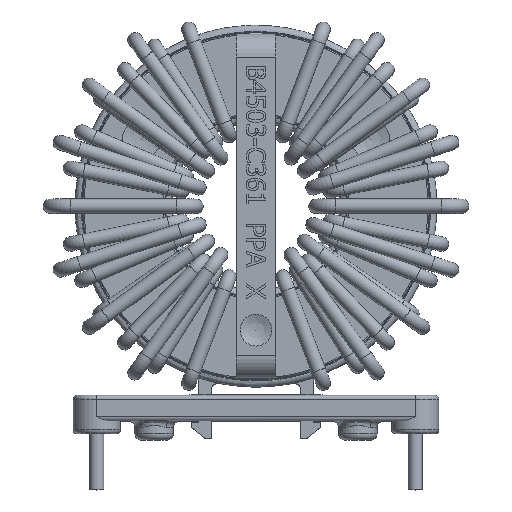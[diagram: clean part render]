
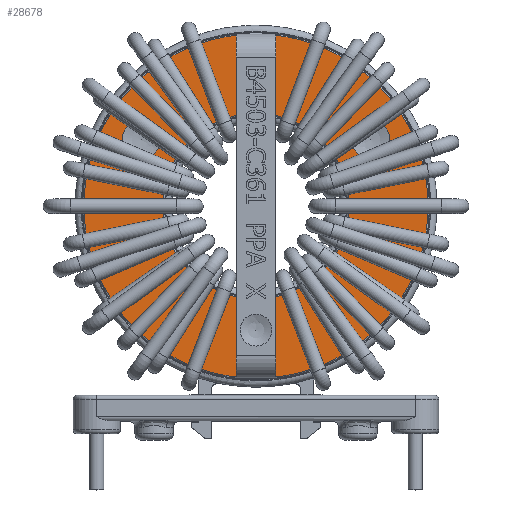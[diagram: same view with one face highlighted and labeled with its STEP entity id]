
A CAD part, top view. The second image highlights one B-rep face of the part: STEP entity #28678.
In plain terms, the highlighted planar face has unit normal (0, 0, 1).
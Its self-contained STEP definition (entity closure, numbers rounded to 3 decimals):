
#576=FACE_BOUND('',#8100,.T.);
#577=FACE_BOUND('',#8101,.T.);
#578=FACE_BOUND('',#8102,.T.);
#1127=PLANE('',#30211);
#2163=LINE('',#45174,#4158);
#2168=LINE('',#45197,#4163);
#2174=LINE('',#45226,#4169);
#2176=LINE('',#45232,#4171);
#2200=LINE('',#45375,#4195);
#2204=LINE('',#45381,#4199);
#4158=VECTOR('',#33287,10.);
#4163=VECTOR('',#33308,10.);
#4169=VECTOR('',#33314,10.);
#4171=VECTOR('',#33320,10.);
#4195=VECTOR('',#33418,10.);
#4199=VECTOR('',#33422,10.);
#6545=FACE_OUTER_BOUND('',#8099,.T.);
#8099=EDGE_LOOP('',(#23721));
#8100=EDGE_LOOP('',(#23722,#23723,#23724,#23725,#23726,#23727,#23728,#23729));
#8101=EDGE_LOOP('',(#23730));
#8102=EDGE_LOOP('',(#23731));
#9668=CIRCLE('',#30207,13.5);
#9671=CIRCLE('',#30212,7.3);
#9672=CIRCLE('',#30213,7.3);
#9673=CIRCLE('',#30214,1.5);
#9674=CIRCLE('',#30215,1.5);
#11217=VERTEX_POINT('',#42039);
#11218=VERTEX_POINT('',#42041);
#11695=VERTEX_POINT('',#45167);
#11698=VERTEX_POINT('',#45172);
#11707=VERTEX_POINT('',#45194);
#11708=VERTEX_POINT('',#45196);
#11713=VERTEX_POINT('',#45230);
#11737=VERTEX_POINT('',#45379);
#12599=VERTEX_POINT('',#50827);
#12602=VERTEX_POINT('',#50839);
#12603=VERTEX_POINT('',#50841);
#15020=EDGE_CURVE('',#11698,#11695,#2163,.T.);
#15031=EDGE_CURVE('',#11708,#11707,#2168,.T.);
#15039=EDGE_CURVE('',#11698,#11218,#2174,.T.);
#15042=EDGE_CURVE('',#11713,#11707,#2176,.T.);
#15089=EDGE_CURVE('',#11217,#11695,#2200,.T.);
#15093=EDGE_CURVE('',#11713,#11737,#2204,.T.);
#16450=EDGE_CURVE('',#12599,#12599,#9668,.T.);
#16454=EDGE_CURVE('',#11708,#11218,#9671,.T.);
#16455=EDGE_CURVE('',#11217,#11737,#9672,.T.);
#16456=EDGE_CURVE('',#12602,#12602,#9673,.T.);
#16457=EDGE_CURVE('',#12603,#12603,#9674,.T.);
#23721=ORIENTED_EDGE('',*,*,#16450,.F.);
#23722=ORIENTED_EDGE('',*,*,#15039,.T.);
#23723=ORIENTED_EDGE('',*,*,#16454,.F.);
#23724=ORIENTED_EDGE('',*,*,#15031,.T.);
#23725=ORIENTED_EDGE('',*,*,#15042,.F.);
#23726=ORIENTED_EDGE('',*,*,#15093,.T.);
#23727=ORIENTED_EDGE('',*,*,#16455,.F.);
#23728=ORIENTED_EDGE('',*,*,#15089,.T.);
#23729=ORIENTED_EDGE('',*,*,#15020,.F.);
#23730=ORIENTED_EDGE('',*,*,#16456,.T.);
#23731=ORIENTED_EDGE('',*,*,#16457,.T.);
#28678=ADVANCED_FACE('',(#6545,#576,#577,#578),#1127,.F.);
#30207=AXIS2_PLACEMENT_3D('',#50829,#35556,#35557);
#30211=AXIS2_PLACEMENT_3D('',#50836,#35565,#35566);
#30212=AXIS2_PLACEMENT_3D('',#50837,#35567,#35568);
#30213=AXIS2_PLACEMENT_3D('',#50838,#35569,#35570);
#30214=AXIS2_PLACEMENT_3D('',#50840,#35571,#35572);
#30215=AXIS2_PLACEMENT_3D('',#50842,#35573,#35574);
#33287=DIRECTION('',(1.,0.,0.));
#33308=DIRECTION('',(0.,1.,0.));
#33314=DIRECTION('',(0.,1.,0.));
#33320=DIRECTION('',(-1.,0.,0.));
#33418=DIRECTION('',(0.,-1.,0.));
#33422=DIRECTION('',(0.,-1.,0.));
#35556=DIRECTION('center_axis',(0.,0.,-1.));
#35557=DIRECTION('ref_axis',(0.,-1.,0.));
#35565=DIRECTION('center_axis',(0.,0.,-1.));
#35566=DIRECTION('ref_axis',(0.,-1.,0.));
#35567=DIRECTION('center_axis',(0.,0.,1.));
#35568=DIRECTION('ref_axis',(0.,-1.,0.));
#35569=DIRECTION('center_axis',(0.,0.,1.));
#35570=DIRECTION('ref_axis',(0.,-1.,0.));
#35571=DIRECTION('center_axis',(0.,0.,-1.));
#35572=DIRECTION('ref_axis',(1.,0.,0.));
#35573=DIRECTION('center_axis',(0.,0.,-1.));
#35574=DIRECTION('ref_axis',(1.,0.,0.));
#42039=CARTESIAN_POINT('',(1.55,9.716,6.4));
#42041=CARTESIAN_POINT('',(-1.55,9.716,6.4));
#45167=CARTESIAN_POINT('',(1.55,3.45,6.4));
#45172=CARTESIAN_POINT('',(-1.55,3.45,6.4));
#45174=CARTESIAN_POINT('',(0.775,3.45,6.4));
#45194=CARTESIAN_POINT('',(-1.55,30.25,6.4));
#45196=CARTESIAN_POINT('',(-1.55,23.984,6.4));
#45197=CARTESIAN_POINT('',(-1.55,10.1,6.4));
#45226=CARTESIAN_POINT('',(-1.55,10.1,6.4));
#45230=CARTESIAN_POINT('',(1.55,30.25,6.4));
#45232=CARTESIAN_POINT('',(-0.775,30.25,6.4));
#45375=CARTESIAN_POINT('',(1.55,23.6,6.4));
#45379=CARTESIAN_POINT('',(1.55,23.984,6.4));
#45381=CARTESIAN_POINT('',(1.55,23.6,6.4));
#50827=CARTESIAN_POINT('',(0.,30.35,6.4));
#50829=CARTESIAN_POINT('Origin',(0.,16.85,6.4));
#50836=CARTESIAN_POINT('Origin',(0.,16.85,6.4));
#50837=CARTESIAN_POINT('Origin',(0.,16.85,6.4));
#50838=CARTESIAN_POINT('Origin',(0.,16.85,6.4));
#50839=CARTESIAN_POINT('',(7.708,21.3,6.4));
#50840=CARTESIAN_POINT('Origin',(9.007,22.05,6.4));
#50841=CARTESIAN_POINT('',(-7.708,21.3,6.4));
#50842=CARTESIAN_POINT('Origin',(-9.007,22.05,6.4));
